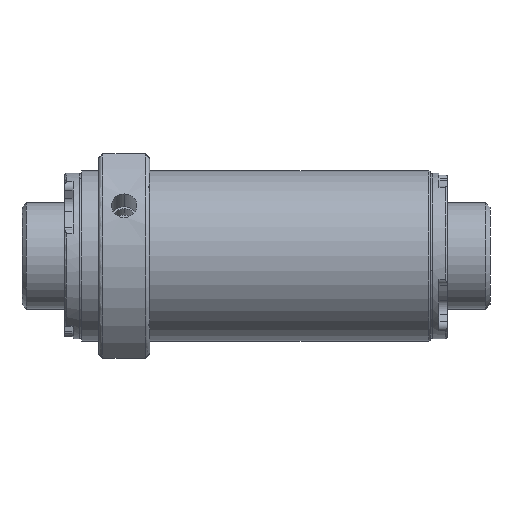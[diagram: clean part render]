
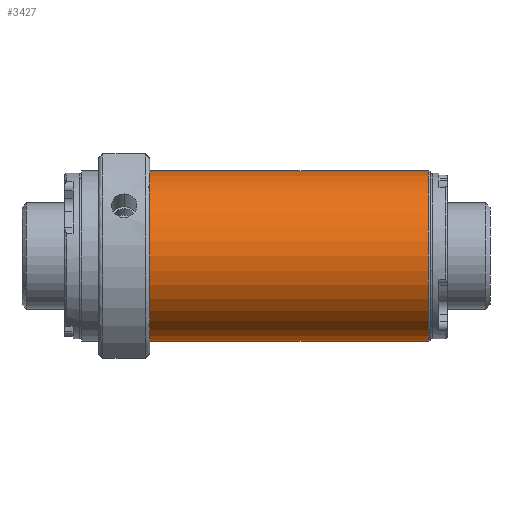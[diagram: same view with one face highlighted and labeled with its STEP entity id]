
A CAD part, front view. The second image highlights one B-rep face of the part: STEP entity #3427.
In plain terms, the highlighted cylindrical face has radius 20 mm (diameter 40 mm), a partial arc.
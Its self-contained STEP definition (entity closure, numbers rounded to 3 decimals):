
#199 = CARTESIAN_POINT ( 'NONE',  ( 0., 0., -20. ) ) ;
#264 = VERTEX_POINT ( 'NONE', #5932 ) ;
#702 = VERTEX_POINT ( 'NONE', #6166 ) ;
#1123 = EDGE_CURVE ( 'NONE', #3439, #264, #2792, .T. ) ;
#1239 = CARTESIAN_POINT ( 'NONE',  ( 0., 0., 20. ) ) ;
#1381 = DIRECTION ( 'NONE',  ( -1., 0., 0. ) ) ;
#1553 = ORIENTED_EDGE ( 'NONE', *, *, #6641, .F. ) ;
#1742 = CIRCLE ( 'NONE', #2016, 20. ) ;
#1837 = EDGE_LOOP ( 'NONE', ( #1553, #3872, #7237, #6422 ) ) ;
#1907 = CARTESIAN_POINT ( 'NONE',  ( 19., 0., 0. ) ) ;
#1960 = CARTESIAN_POINT ( 'NONE',  ( 0., 0., 0. ) ) ;
#1988 = DIRECTION ( 'NONE',  ( -1., 0., 0. ) ) ;
#2016 = AXIS2_PLACEMENT_3D ( 'NONE', #1907, #1988, #3724 ) ;
#2196 = CARTESIAN_POINT ( 'NONE',  ( 19., 0., -20. ) ) ;
#2542 = DIRECTION ( 'NONE',  ( 0., 0., 1. ) ) ;
#2792 = LINE ( 'NONE', #1239, #2876 ) ;
#2876 = VECTOR ( 'NONE', #5971, 1000. ) ;
#3117 = EDGE_CURVE ( 'NONE', #702, #3439, #4518, .T. ) ;
#3314 = CYLINDRICAL_SURFACE ( 'NONE', #4249, 20. ) ;
#3427 = ADVANCED_FACE ( 'NONE', ( #7422 ), #3314, .T. ) ;
#3439 = VERTEX_POINT ( 'NONE', #5540 ) ;
#3472 = EDGE_CURVE ( 'NONE', #5643, #264, #1742, .T. ) ;
#3724 = DIRECTION ( 'NONE',  ( 0., 0., 1. ) ) ;
#3872 = ORIENTED_EDGE ( 'NONE', *, *, #3117, .T. ) ;
#4249 = AXIS2_PLACEMENT_3D ( 'NONE', #1960, #7318, #2542 ) ;
#4287 = LINE ( 'NONE', #199, #7277 ) ;
#4518 = CIRCLE ( 'NONE', #5878, 20. ) ;
#5186 = CARTESIAN_POINT ( 'NONE',  ( 84.5, 0., 0. ) ) ;
#5540 = CARTESIAN_POINT ( 'NONE',  ( 84.5, 0., 20. ) ) ;
#5643 = VERTEX_POINT ( 'NONE', #2196 ) ;
#5878 = AXIS2_PLACEMENT_3D ( 'NONE', #5186, #7548, #6318 ) ;
#5932 = CARTESIAN_POINT ( 'NONE',  ( 19., 0., 20. ) ) ;
#5971 = DIRECTION ( 'NONE',  ( -1., 0., 0. ) ) ;
#6166 = CARTESIAN_POINT ( 'NONE',  ( 84.5, 0., -20. ) ) ;
#6318 = DIRECTION ( 'NONE',  ( 0., 0., -1. ) ) ;
#6422 = ORIENTED_EDGE ( 'NONE', *, *, #3472, .F. ) ;
#6641 = EDGE_CURVE ( 'NONE', #702, #5643, #4287, .T. ) ;
#7237 = ORIENTED_EDGE ( 'NONE', *, *, #1123, .T. ) ;
#7277 = VECTOR ( 'NONE', #1381, 1000. ) ;
#7318 = DIRECTION ( 'NONE',  ( -1., 0., 0. ) ) ;
#7422 = FACE_OUTER_BOUND ( 'NONE', #1837, .T. ) ;
#7548 = DIRECTION ( 'NONE',  ( -1., 0., 0. ) ) ;
